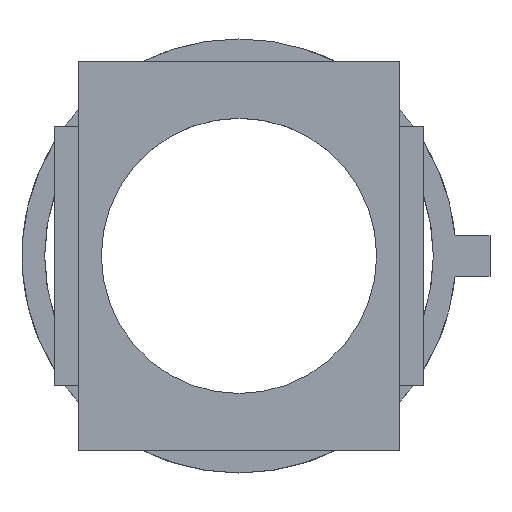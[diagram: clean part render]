
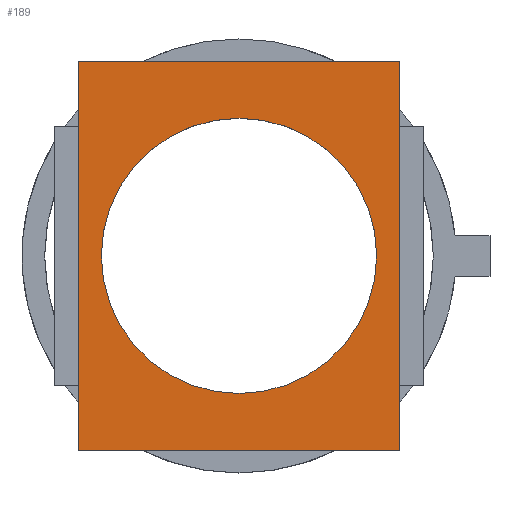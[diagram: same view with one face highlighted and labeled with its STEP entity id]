
A CAD part, top view. The second image highlights one B-rep face of the part: STEP entity #189.
In plain terms, the highlighted planar face has unit normal (0, 0, 1).
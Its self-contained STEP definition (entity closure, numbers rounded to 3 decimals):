
#21 = EDGE_CURVE('',#22,#24,#26,.T.);
#22 = VERTEX_POINT('',#23);
#23 = CARTESIAN_POINT('',(8.2,-24.,-127.));
#24 = VERTEX_POINT('',#25);
#25 = CARTESIAN_POINT('',(8.2,-16.,-127.));
#26 = SURFACE_CURVE('',#27,(#31,#43),.PCURVE_S1.);
#27 = LINE('',#28,#29);
#28 = CARTESIAN_POINT('',(8.2,-24.,-127.));
#29 = VECTOR('',#30,1.);
#30 = DIRECTION('',(0.,1.,0.));
#31 = PCURVE('',#32,#37);
#32 = PLANE('',#33);
#33 = AXIS2_PLACEMENT_3D('',#34,#35,#36);
#34 = CARTESIAN_POINT('',(8.2,-24.,-132.));
#35 = DIRECTION('',(1.,0.,0.));
#36 = DIRECTION('',(0.,0.,1.));
#37 = DEFINITIONAL_REPRESENTATION('',(#38),#42);
#38 = LINE('',#39,#40);
#39 = CARTESIAN_POINT('',(5.,0.));
#40 = VECTOR('',#41,1.);
#41 = DIRECTION('',(0.,-1.));
#42 = ( GEOMETRIC_REPRESENTATION_CONTEXT(2) 
PARAMETRIC_REPRESENTATION_CONTEXT() REPRESENTATION_CONTEXT('2D SPACE',''
  ) );
#43 = PCURVE('',#44,#49);
#44 = PLANE('',#45);
#45 = AXIS2_PLACEMENT_3D('',#46,#47,#48);
#46 = CARTESIAN_POINT('',(8.2,-24.,-127.));
#47 = DIRECTION('',(0.,0.,1.));
#48 = DIRECTION('',(1.,0.,0.));
#49 = DEFINITIONAL_REPRESENTATION('',(#50),#54);
#50 = LINE('',#51,#52);
#51 = CARTESIAN_POINT('',(0.,0.));
#52 = VECTOR('',#53,1.);
#53 = DIRECTION('',(0.,1.));
#54 = ( GEOMETRIC_REPRESENTATION_CONTEXT(2) 
PARAMETRIC_REPRESENTATION_CONTEXT() REPRESENTATION_CONTEXT('2D SPACE',''
  ) );
#72 = PLANE('',#73);
#73 = AXIS2_PLACEMENT_3D('',#74,#75,#76);
#74 = CARTESIAN_POINT('',(8.2,-24.,-132.));
#75 = DIRECTION('',(0.,1.,0.));
#76 = DIRECTION('',(0.,0.,1.));
#189 = ADVANCED_FACE('',(#190,#382),#44,.T.);
#190 = FACE_BOUND('',#191,.T.);
#191 = EDGE_LOOP('',(#192,#193,#216,#244,#272,#300,#328,#356));
#192 = ORIENTED_EDGE('',*,*,#21,.F.);
#193 = ORIENTED_EDGE('',*,*,#194,.T.);
#194 = EDGE_CURVE('',#22,#195,#197,.T.);
#195 = VERTEX_POINT('',#196);
#196 = CARTESIAN_POINT('',(47.8,-24.,-127.));
#197 = SURFACE_CURVE('',#198,(#202,#209),.PCURVE_S1.);
#198 = LINE('',#199,#200);
#199 = CARTESIAN_POINT('',(8.2,-24.,-127.));
#200 = VECTOR('',#201,1.);
#201 = DIRECTION('',(1.,0.,0.));
#202 = PCURVE('',#44,#203);
#203 = DEFINITIONAL_REPRESENTATION('',(#204),#208);
#204 = LINE('',#205,#206);
#205 = CARTESIAN_POINT('',(0.,0.));
#206 = VECTOR('',#207,1.);
#207 = DIRECTION('',(1.,0.));
#208 = ( GEOMETRIC_REPRESENTATION_CONTEXT(2) 
PARAMETRIC_REPRESENTATION_CONTEXT() REPRESENTATION_CONTEXT('2D SPACE',''
  ) );
#209 = PCURVE('',#72,#210);
#210 = DEFINITIONAL_REPRESENTATION('',(#211),#215);
#211 = LINE('',#212,#213);
#212 = CARTESIAN_POINT('',(5.,0.));
#213 = VECTOR('',#214,1.);
#214 = DIRECTION('',(0.,1.));
#215 = ( GEOMETRIC_REPRESENTATION_CONTEXT(2) 
PARAMETRIC_REPRESENTATION_CONTEXT() REPRESENTATION_CONTEXT('2D SPACE',''
  ) );
#216 = ORIENTED_EDGE('',*,*,#217,.T.);
#217 = EDGE_CURVE('',#195,#218,#220,.T.);
#218 = VERTEX_POINT('',#219);
#219 = CARTESIAN_POINT('',(47.8,-16.,-127.));
#220 = SURFACE_CURVE('',#221,(#225,#232),.PCURVE_S1.);
#221 = LINE('',#222,#223);
#222 = CARTESIAN_POINT('',(47.8,-24.,-127.));
#223 = VECTOR('',#224,1.);
#224 = DIRECTION('',(0.,1.,0.));
#225 = PCURVE('',#44,#226);
#226 = DEFINITIONAL_REPRESENTATION('',(#227),#231);
#227 = LINE('',#228,#229);
#228 = CARTESIAN_POINT('',(39.6,0.));
#229 = VECTOR('',#230,1.);
#230 = DIRECTION('',(0.,1.));
#231 = ( GEOMETRIC_REPRESENTATION_CONTEXT(2) 
PARAMETRIC_REPRESENTATION_CONTEXT() REPRESENTATION_CONTEXT('2D SPACE',''
  ) );
#232 = PCURVE('',#233,#238);
#233 = PLANE('',#234);
#234 = AXIS2_PLACEMENT_3D('',#235,#236,#237);
#235 = CARTESIAN_POINT('',(47.8,-24.,-132.));
#236 = DIRECTION('',(1.,0.,0.));
#237 = DIRECTION('',(0.,0.,1.));
#238 = DEFINITIONAL_REPRESENTATION('',(#239),#243);
#239 = LINE('',#240,#241);
#240 = CARTESIAN_POINT('',(5.,0.));
#241 = VECTOR('',#242,1.);
#242 = DIRECTION('',(0.,-1.));
#243 = ( GEOMETRIC_REPRESENTATION_CONTEXT(2) 
PARAMETRIC_REPRESENTATION_CONTEXT() REPRESENTATION_CONTEXT('2D SPACE',''
  ) );
#244 = ORIENTED_EDGE('',*,*,#245,.T.);
#245 = EDGE_CURVE('',#218,#246,#248,.T.);
#246 = VERTEX_POINT('',#247);
#247 = CARTESIAN_POINT('',(47.8,16.,-127.));
#248 = SURFACE_CURVE('',#249,(#253,#260),.PCURVE_S1.);
#249 = LINE('',#250,#251);
#250 = CARTESIAN_POINT('',(47.8,-24.,-127.));
#251 = VECTOR('',#252,1.);
#252 = DIRECTION('',(0.,1.,0.));
#253 = PCURVE('',#44,#254);
#254 = DEFINITIONAL_REPRESENTATION('',(#255),#259);
#255 = LINE('',#256,#257);
#256 = CARTESIAN_POINT('',(39.6,0.));
#257 = VECTOR('',#258,1.);
#258 = DIRECTION('',(0.,1.));
#259 = ( GEOMETRIC_REPRESENTATION_CONTEXT(2) 
PARAMETRIC_REPRESENTATION_CONTEXT() REPRESENTATION_CONTEXT('2D SPACE',''
  ) );
#260 = PCURVE('',#261,#266);
#261 = PLANE('',#262);
#262 = AXIS2_PLACEMENT_3D('',#263,#264,#265);
#263 = CARTESIAN_POINT('',(47.8,-16.,-132.));
#264 = DIRECTION('',(1.,0.,0.));
#265 = DIRECTION('',(0.,0.,1.));
#266 = DEFINITIONAL_REPRESENTATION('',(#267),#271);
#267 = LINE('',#268,#269);
#268 = CARTESIAN_POINT('',(5.,8.));
#269 = VECTOR('',#270,1.);
#270 = DIRECTION('',(0.,-1.));
#271 = ( GEOMETRIC_REPRESENTATION_CONTEXT(2) 
PARAMETRIC_REPRESENTATION_CONTEXT() REPRESENTATION_CONTEXT('2D SPACE',''
  ) );
#272 = ORIENTED_EDGE('',*,*,#273,.T.);
#273 = EDGE_CURVE('',#246,#274,#276,.T.);
#274 = VERTEX_POINT('',#275);
#275 = CARTESIAN_POINT('',(47.8,24.,-127.));
#276 = SURFACE_CURVE('',#277,(#281,#288),.PCURVE_S1.);
#277 = LINE('',#278,#279);
#278 = CARTESIAN_POINT('',(47.8,-24.,-127.));
#279 = VECTOR('',#280,1.);
#280 = DIRECTION('',(0.,1.,0.));
#281 = PCURVE('',#44,#282);
#282 = DEFINITIONAL_REPRESENTATION('',(#283),#287);
#283 = LINE('',#284,#285);
#284 = CARTESIAN_POINT('',(39.6,0.));
#285 = VECTOR('',#286,1.);
#286 = DIRECTION('',(0.,1.));
#287 = ( GEOMETRIC_REPRESENTATION_CONTEXT(2) 
PARAMETRIC_REPRESENTATION_CONTEXT() REPRESENTATION_CONTEXT('2D SPACE',''
  ) );
#288 = PCURVE('',#289,#294);
#289 = PLANE('',#290);
#290 = AXIS2_PLACEMENT_3D('',#291,#292,#293);
#291 = CARTESIAN_POINT('',(47.8,-24.,-132.));
#292 = DIRECTION('',(1.,0.,0.));
#293 = DIRECTION('',(0.,0.,1.));
#294 = DEFINITIONAL_REPRESENTATION('',(#295),#299);
#295 = LINE('',#296,#297);
#296 = CARTESIAN_POINT('',(5.,0.));
#297 = VECTOR('',#298,1.);
#298 = DIRECTION('',(0.,-1.));
#299 = ( GEOMETRIC_REPRESENTATION_CONTEXT(2) 
PARAMETRIC_REPRESENTATION_CONTEXT() REPRESENTATION_CONTEXT('2D SPACE',''
  ) );
#300 = ORIENTED_EDGE('',*,*,#301,.F.);
#301 = EDGE_CURVE('',#302,#274,#304,.T.);
#302 = VERTEX_POINT('',#303);
#303 = CARTESIAN_POINT('',(8.2,24.,-127.));
#304 = SURFACE_CURVE('',#305,(#309,#316),.PCURVE_S1.);
#305 = LINE('',#306,#307);
#306 = CARTESIAN_POINT('',(8.2,24.,-127.));
#307 = VECTOR('',#308,1.);
#308 = DIRECTION('',(1.,0.,0.));
#309 = PCURVE('',#44,#310);
#310 = DEFINITIONAL_REPRESENTATION('',(#311),#315);
#311 = LINE('',#312,#313);
#312 = CARTESIAN_POINT('',(0.,48.));
#313 = VECTOR('',#314,1.);
#314 = DIRECTION('',(1.,0.));
#315 = ( GEOMETRIC_REPRESENTATION_CONTEXT(2) 
PARAMETRIC_REPRESENTATION_CONTEXT() REPRESENTATION_CONTEXT('2D SPACE',''
  ) );
#316 = PCURVE('',#317,#322);
#317 = PLANE('',#318);
#318 = AXIS2_PLACEMENT_3D('',#319,#320,#321);
#319 = CARTESIAN_POINT('',(8.2,24.,-132.));
#320 = DIRECTION('',(0.,1.,0.));
#321 = DIRECTION('',(0.,0.,1.));
#322 = DEFINITIONAL_REPRESENTATION('',(#323),#327);
#323 = LINE('',#324,#325);
#324 = CARTESIAN_POINT('',(5.,0.));
#325 = VECTOR('',#326,1.);
#326 = DIRECTION('',(0.,1.));
#327 = ( GEOMETRIC_REPRESENTATION_CONTEXT(2) 
PARAMETRIC_REPRESENTATION_CONTEXT() REPRESENTATION_CONTEXT('2D SPACE',''
  ) );
#328 = ORIENTED_EDGE('',*,*,#329,.F.);
#329 = EDGE_CURVE('',#330,#302,#332,.T.);
#330 = VERTEX_POINT('',#331);
#331 = CARTESIAN_POINT('',(8.2,16.,-127.));
#332 = SURFACE_CURVE('',#333,(#337,#344),.PCURVE_S1.);
#333 = LINE('',#334,#335);
#334 = CARTESIAN_POINT('',(8.2,-24.,-127.));
#335 = VECTOR('',#336,1.);
#336 = DIRECTION('',(0.,1.,0.));
#337 = PCURVE('',#44,#338);
#338 = DEFINITIONAL_REPRESENTATION('',(#339),#343);
#339 = LINE('',#340,#341);
#340 = CARTESIAN_POINT('',(0.,0.));
#341 = VECTOR('',#342,1.);
#342 = DIRECTION('',(0.,1.));
#343 = ( GEOMETRIC_REPRESENTATION_CONTEXT(2) 
PARAMETRIC_REPRESENTATION_CONTEXT() REPRESENTATION_CONTEXT('2D SPACE',''
  ) );
#344 = PCURVE('',#345,#350);
#345 = PLANE('',#346);
#346 = AXIS2_PLACEMENT_3D('',#347,#348,#349);
#347 = CARTESIAN_POINT('',(8.2,-24.,-132.));
#348 = DIRECTION('',(1.,0.,0.));
#349 = DIRECTION('',(0.,0.,1.));
#350 = DEFINITIONAL_REPRESENTATION('',(#351),#355);
#351 = LINE('',#352,#353);
#352 = CARTESIAN_POINT('',(5.,0.));
#353 = VECTOR('',#354,1.);
#354 = DIRECTION('',(0.,-1.));
#355 = ( GEOMETRIC_REPRESENTATION_CONTEXT(2) 
PARAMETRIC_REPRESENTATION_CONTEXT() REPRESENTATION_CONTEXT('2D SPACE',''
  ) );
#356 = ORIENTED_EDGE('',*,*,#357,.F.);
#357 = EDGE_CURVE('',#24,#330,#358,.T.);
#358 = SURFACE_CURVE('',#359,(#363,#370),.PCURVE_S1.);
#359 = LINE('',#360,#361);
#360 = CARTESIAN_POINT('',(8.2,-24.,-127.));
#361 = VECTOR('',#362,1.);
#362 = DIRECTION('',(0.,1.,0.));
#363 = PCURVE('',#44,#364);
#364 = DEFINITIONAL_REPRESENTATION('',(#365),#369);
#365 = LINE('',#366,#367);
#366 = CARTESIAN_POINT('',(0.,0.));
#367 = VECTOR('',#368,1.);
#368 = DIRECTION('',(0.,1.));
#369 = ( GEOMETRIC_REPRESENTATION_CONTEXT(2) 
PARAMETRIC_REPRESENTATION_CONTEXT() REPRESENTATION_CONTEXT('2D SPACE',''
  ) );
#370 = PCURVE('',#371,#376);
#371 = PLANE('',#372);
#372 = AXIS2_PLACEMENT_3D('',#373,#374,#375);
#373 = CARTESIAN_POINT('',(8.2,-16.,-132.));
#374 = DIRECTION('',(1.,0.,0.));
#375 = DIRECTION('',(0.,0.,1.));
#376 = DEFINITIONAL_REPRESENTATION('',(#377),#381);
#377 = LINE('',#378,#379);
#378 = CARTESIAN_POINT('',(5.,8.));
#379 = VECTOR('',#380,1.);
#380 = DIRECTION('',(0.,-1.));
#381 = ( GEOMETRIC_REPRESENTATION_CONTEXT(2) 
PARAMETRIC_REPRESENTATION_CONTEXT() REPRESENTATION_CONTEXT('2D SPACE',''
  ) );
#382 = FACE_BOUND('',#383,.T.);
#383 = EDGE_LOOP('',(#384));
#384 = ORIENTED_EDGE('',*,*,#385,.T.);
#385 = EDGE_CURVE('',#386,#386,#388,.T.);
#386 = VERTEX_POINT('',#387);
#387 = CARTESIAN_POINT('',(28.,17.,-127.));
#388 = SURFACE_CURVE('',#389,(#394,#405),.PCURVE_S1.);
#389 = CIRCLE('',#390,17.);
#390 = AXIS2_PLACEMENT_3D('',#391,#392,#393);
#391 = CARTESIAN_POINT('',(28.,0.,-127.));
#392 = DIRECTION('',(-0.,0.,-1.));
#393 = DIRECTION('',(0.,1.,0.));
#394 = PCURVE('',#44,#395);
#395 = DEFINITIONAL_REPRESENTATION('',(#396),#404);
#396 = ( BOUNDED_CURVE() B_SPLINE_CURVE(2,(#397,#398,#399,#400,#401,#402
,#403),.UNSPECIFIED.,.T.,.F.) B_SPLINE_CURVE_WITH_KNOTS((1,2,2,2,2,1),(
    -2.094,0.,2.094,4.189,6.283,
8.378),.UNSPECIFIED.) CURVE() GEOMETRIC_REPRESENTATION_ITEM() 
RATIONAL_B_SPLINE_CURVE((1.,0.5,1.,0.5,1.,0.5,1.)) REPRESENTATION_ITEM(
  '') );
#397 = CARTESIAN_POINT('',(19.8,41.));
#398 = CARTESIAN_POINT('',(49.245,41.));
#399 = CARTESIAN_POINT('',(34.522,15.5));
#400 = CARTESIAN_POINT('',(19.8,-10.));
#401 = CARTESIAN_POINT('',(5.078,15.5));
#402 = CARTESIAN_POINT('',(-9.645,41.));
#403 = CARTESIAN_POINT('',(19.8,41.));
#404 = ( GEOMETRIC_REPRESENTATION_CONTEXT(2) 
PARAMETRIC_REPRESENTATION_CONTEXT() REPRESENTATION_CONTEXT('2D SPACE',''
  ) );
#405 = PCURVE('',#406,#411);
#406 = CYLINDRICAL_SURFACE('',#407,17.);
#407 = AXIS2_PLACEMENT_3D('',#408,#409,#410);
#408 = CARTESIAN_POINT('',(28.,0.,-133.));
#409 = DIRECTION('',(-0.,0.,-1.));
#410 = DIRECTION('',(0.,1.,0.));
#411 = DEFINITIONAL_REPRESENTATION('',(#412),#416);
#412 = LINE('',#413,#414);
#413 = CARTESIAN_POINT('',(-6.283,-6.));
#414 = VECTOR('',#415,1.);
#415 = DIRECTION('',(1.,-0.));
#416 = ( GEOMETRIC_REPRESENTATION_CONTEXT(2) 
PARAMETRIC_REPRESENTATION_CONTEXT() REPRESENTATION_CONTEXT('2D SPACE',''
  ) );
